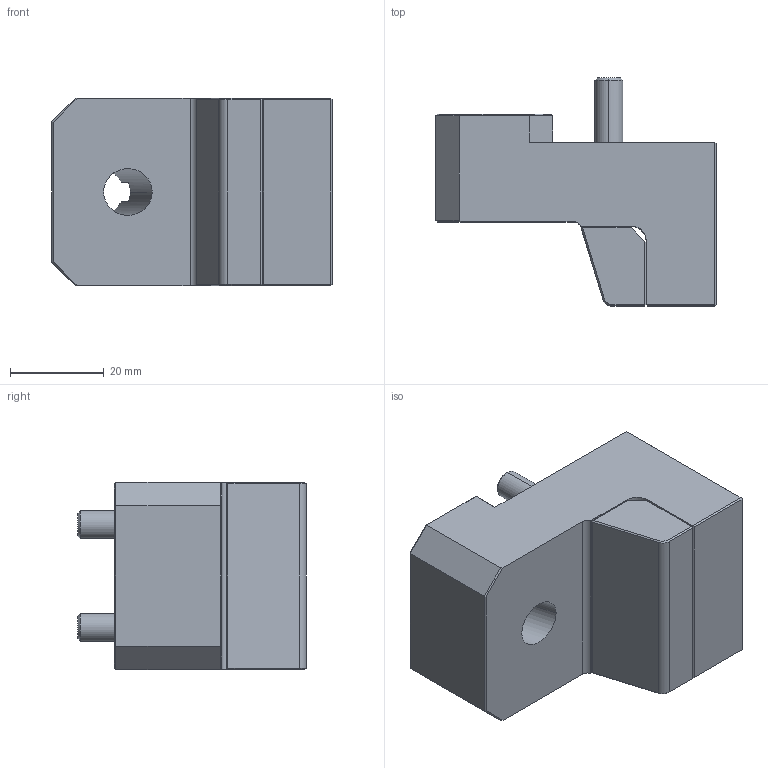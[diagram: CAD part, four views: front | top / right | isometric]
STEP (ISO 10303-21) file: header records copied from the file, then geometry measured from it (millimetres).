
FILE_DESCRIPTION (( 'STEP AP214' ), '1' );
FILE_NAME ('CG604035.STEP', '2013-06-12T09:33:57', ( '' ), ( '' ), 'SwSTEP 2.0', 'SolidWorks 2011', '' );
FILE_SCHEMA (( 'AUTOMOTIVE_DESIGN' ));
Length unit declared in the file: millimetre
Products named in the file (5): CG604035; socket head cap screw_din_DIN 912 M6 x 25 --- 25N; 9CG604035; 3IMAN5X2; SC141740
Assembly tree (5 placements, depth 2):
  CG604035
    3IMAN5X2
    9CG604035
    socket head cap screw_din_DIN 912 M6 x 25 --- 25N  x2
    SC141740
Bounding box: 60 x 48.8 x 40 mm (x, y, z)
Volume: 60675.9 mm3; surface area: 17381.8 mm2
Topology: 5 solids, 5 shells, 155 faces, 353 edges, 209 vertices
Faces by surface type: plane 95, cylinder 38, cone 12, torus 8, bspline 2
Entity records: 3890 total; most frequent: CARTESIAN_POINT 694, DIRECTION 639, ORIENTED_EDGE 582, EDGE_CURVE 291, AXIS2_PLACEMENT_3D 221, VECTOR 197, LINE 197, VERTEX_POINT 176
